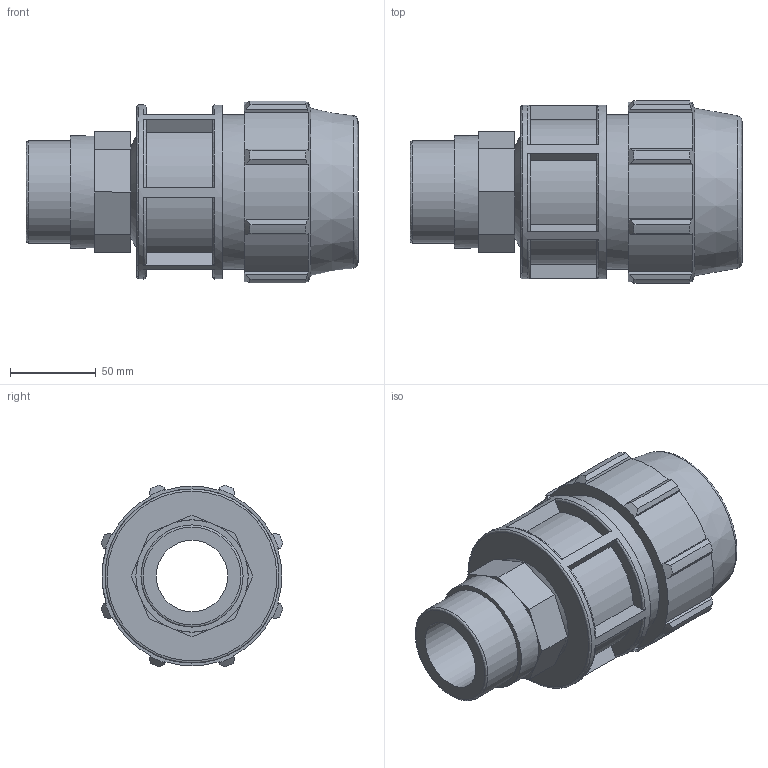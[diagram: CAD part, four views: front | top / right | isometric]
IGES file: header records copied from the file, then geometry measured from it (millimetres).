
Global section: file name: 077200063020_187200063020_0772060630200A.ipt; native system: Autodesk Inventor 2015; preprocessor: unknown; author: KIM; date: 20170606.174316; units: millimetre
Bounding box: 194 x 106.32 x 106.32 mm (x, y, z)
Volume: 646280.8 mm3; surface area: 114478.4 mm2
Topology: 1 solids, 1 shells, 137 faces, 367 edges, 244 vertices
Faces by surface type: plane 81, cylinder 26, revolution 19, cone 11
Full cylindrical faces by diameter (mm): 59.614 x1, 65.575 x1, 90.4 x1, 101.7 x1
